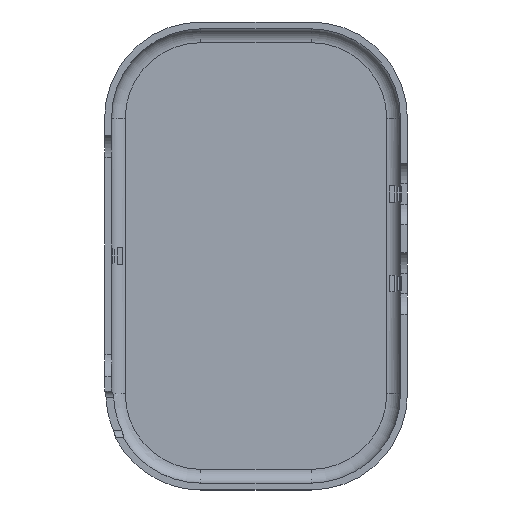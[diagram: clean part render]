
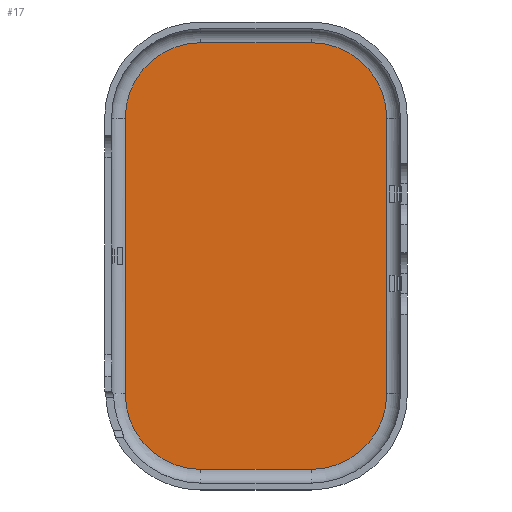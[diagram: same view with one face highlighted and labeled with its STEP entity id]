
A CAD part, top view. The second image highlights one B-rep face of the part: STEP entity #17.
In plain terms, the highlighted planar face has unit normal (0, 0, 1).
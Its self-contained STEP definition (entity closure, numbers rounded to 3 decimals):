
#17 = ADVANCED_FACE('',(#18),#32,.T.);
#18 = FACE_BOUND('',#19,.T.);
#19 = EDGE_LOOP('',(#20,#55,#84,#112,#141,#169,#198,#226));
#20 = ORIENTED_EDGE('',*,*,#21,.T.);
#21 = EDGE_CURVE('',#22,#24,#26,.T.);
#22 = VERTEX_POINT('',#23);
#23 = CARTESIAN_POINT('',(-38.,40.,-11.2));
#24 = VERTEX_POINT('',#25);
#25 = CARTESIAN_POINT('',(-38.,-40.,-11.2));
#26 = SURFACE_CURVE('',#27,(#31,#43),.PCURVE_S1.);
#27 = LINE('',#28,#29);
#28 = CARTESIAN_POINT('',(-38.,33.,-11.2));
#29 = VECTOR('',#30,1.);
#30 = DIRECTION('',(0.,-1.,0.));
#31 = PCURVE('',#32,#37);
#32 = PLANE('',#33);
#33 = AXIS2_PLACEMENT_3D('',#34,#35,#36);
#34 = CARTESIAN_POINT('',(0.,0.,-11.2));
#35 = DIRECTION('',(0.,0.,1.));
#36 = DIRECTION('',(1.,0.,-0.));
#37 = DEFINITIONAL_REPRESENTATION('',(#38),#42);
#38 = LINE('',#39,#40);
#39 = CARTESIAN_POINT('',(-38.,33.));
#40 = VECTOR('',#41,1.);
#41 = DIRECTION('',(0.,-1.));
#42 = ( GEOMETRIC_REPRESENTATION_CONTEXT(2) 
PARAMETRIC_REPRESENTATION_CONTEXT() REPRESENTATION_CONTEXT('2D SPACE',''
  ) );
#43 = PCURVE('',#44,#49);
#44 = CYLINDRICAL_SURFACE('',#45,4.);
#45 = AXIS2_PLACEMENT_3D('',#46,#47,#48);
#46 = CARTESIAN_POINT('',(-38.,33.,-7.2));
#47 = DIRECTION('',(0.,-1.,0.));
#48 = DIRECTION('',(-0.707,-0.,-0.707));
#49 = DEFINITIONAL_REPRESENTATION('',(#50),#54);
#50 = LINE('',#51,#52);
#51 = CARTESIAN_POINT('',(7.069,0.));
#52 = VECTOR('',#53,1.);
#53 = DIRECTION('',(0.,1.));
#54 = ( GEOMETRIC_REPRESENTATION_CONTEXT(2) 
PARAMETRIC_REPRESENTATION_CONTEXT() REPRESENTATION_CONTEXT('2D SPACE',''
  ) );
#55 = ORIENTED_EDGE('',*,*,#56,.T.);
#56 = EDGE_CURVE('',#24,#57,#59,.T.);
#57 = VERTEX_POINT('',#58);
#58 = CARTESIAN_POINT('',(-16.,-62.,-11.2));
#59 = SURFACE_CURVE('',#60,(#65,#72),.PCURVE_S1.);
#60 = CIRCLE('',#61,22.);
#61 = AXIS2_PLACEMENT_3D('',#62,#63,#64);
#62 = CARTESIAN_POINT('',(-16.,-40.,-11.2));
#63 = DIRECTION('',(0.,0.,1.));
#64 = DIRECTION('',(-0.707,-0.707,0.));
#65 = PCURVE('',#32,#66);
#66 = DEFINITIONAL_REPRESENTATION('',(#67),#71);
#67 = CIRCLE('',#68,22.);
#68 = AXIS2_PLACEMENT_2D('',#69,#70);
#69 = CARTESIAN_POINT('',(-16.,-40.));
#70 = DIRECTION('',(-0.707,-0.707));
#71 = ( GEOMETRIC_REPRESENTATION_CONTEXT(2) 
PARAMETRIC_REPRESENTATION_CONTEXT() REPRESENTATION_CONTEXT('2D SPACE',''
  ) );
#72 = PCURVE('',#73,#78);
#73 = TOROIDAL_SURFACE('',#74,22.,4.);
#74 = AXIS2_PLACEMENT_3D('',#75,#76,#77);
#75 = CARTESIAN_POINT('',(-16.,-40.,-7.2));
#76 = DIRECTION('',(0.,0.,1.));
#77 = DIRECTION('',(1.,0.,-0.));
#78 = DEFINITIONAL_REPRESENTATION('',(#79),#83);
#79 = LINE('',#80,#81);
#80 = CARTESIAN_POINT('',(-2.356,4.712));
#81 = VECTOR('',#82,1.);
#82 = DIRECTION('',(1.,0.));
#83 = ( GEOMETRIC_REPRESENTATION_CONTEXT(2) 
PARAMETRIC_REPRESENTATION_CONTEXT() REPRESENTATION_CONTEXT('2D SPACE',''
  ) );
#84 = ORIENTED_EDGE('',*,*,#85,.T.);
#85 = EDGE_CURVE('',#57,#86,#88,.T.);
#86 = VERTEX_POINT('',#87);
#87 = CARTESIAN_POINT('',(16.,-62.,-11.2));
#88 = SURFACE_CURVE('',#89,(#93,#100),.PCURVE_S1.);
#89 = LINE('',#90,#91);
#90 = CARTESIAN_POINT('',(-21.,-62.,-11.2));
#91 = VECTOR('',#92,1.);
#92 = DIRECTION('',(1.,0.,0.));
#93 = PCURVE('',#32,#94);
#94 = DEFINITIONAL_REPRESENTATION('',(#95),#99);
#95 = LINE('',#96,#97);
#96 = CARTESIAN_POINT('',(-21.,-62.));
#97 = VECTOR('',#98,1.);
#98 = DIRECTION('',(1.,0.));
#99 = ( GEOMETRIC_REPRESENTATION_CONTEXT(2) 
PARAMETRIC_REPRESENTATION_CONTEXT() REPRESENTATION_CONTEXT('2D SPACE',''
  ) );
#100 = PCURVE('',#101,#106);
#101 = CYLINDRICAL_SURFACE('',#102,4.);
#102 = AXIS2_PLACEMENT_3D('',#103,#104,#105);
#103 = CARTESIAN_POINT('',(-21.,-62.,-7.2));
#104 = DIRECTION('',(1.,0.,0.));
#105 = DIRECTION('',(0.,-0.707,-0.707));
#106 = DEFINITIONAL_REPRESENTATION('',(#107),#111);
#107 = LINE('',#108,#109);
#108 = CARTESIAN_POINT('',(7.069,0.));
#109 = VECTOR('',#110,1.);
#110 = DIRECTION('',(0.,1.));
#111 = ( GEOMETRIC_REPRESENTATION_CONTEXT(2) 
PARAMETRIC_REPRESENTATION_CONTEXT() REPRESENTATION_CONTEXT('2D SPACE',''
  ) );
#112 = ORIENTED_EDGE('',*,*,#113,.T.);
#113 = EDGE_CURVE('',#86,#114,#116,.T.);
#114 = VERTEX_POINT('',#115);
#115 = CARTESIAN_POINT('',(38.,-40.,-11.2));
#116 = SURFACE_CURVE('',#117,(#122,#129),.PCURVE_S1.);
#117 = CIRCLE('',#118,22.);
#118 = AXIS2_PLACEMENT_3D('',#119,#120,#121);
#119 = CARTESIAN_POINT('',(16.,-40.,-11.2));
#120 = DIRECTION('',(0.,0.,1.));
#121 = DIRECTION('',(0.707,-0.707,0.));
#122 = PCURVE('',#32,#123);
#123 = DEFINITIONAL_REPRESENTATION('',(#124),#128);
#124 = CIRCLE('',#125,22.);
#125 = AXIS2_PLACEMENT_2D('',#126,#127);
#126 = CARTESIAN_POINT('',(16.,-40.));
#127 = DIRECTION('',(0.707,-0.707));
#128 = ( GEOMETRIC_REPRESENTATION_CONTEXT(2) 
PARAMETRIC_REPRESENTATION_CONTEXT() REPRESENTATION_CONTEXT('2D SPACE',''
  ) );
#129 = PCURVE('',#130,#135);
#130 = TOROIDAL_SURFACE('',#131,22.,4.);
#131 = AXIS2_PLACEMENT_3D('',#132,#133,#134);
#132 = CARTESIAN_POINT('',(16.,-40.,-7.2));
#133 = DIRECTION('',(0.,0.,1.));
#134 = DIRECTION('',(1.,0.,-0.));
#135 = DEFINITIONAL_REPRESENTATION('',(#136),#140);
#136 = LINE('',#137,#138);
#137 = CARTESIAN_POINT('',(-0.785,4.712));
#138 = VECTOR('',#139,1.);
#139 = DIRECTION('',(1.,0.));
#140 = ( GEOMETRIC_REPRESENTATION_CONTEXT(2) 
PARAMETRIC_REPRESENTATION_CONTEXT() REPRESENTATION_CONTEXT('2D SPACE',''
  ) );
#141 = ORIENTED_EDGE('',*,*,#142,.T.);
#142 = EDGE_CURVE('',#114,#143,#145,.T.);
#143 = VERTEX_POINT('',#144);
#144 = CARTESIAN_POINT('',(38.,40.,-11.2));
#145 = SURFACE_CURVE('',#146,(#150,#157),.PCURVE_S1.);
#146 = LINE('',#147,#148);
#147 = CARTESIAN_POINT('',(38.,-33.,-11.2));
#148 = VECTOR('',#149,1.);
#149 = DIRECTION('',(0.,1.,0.));
#150 = PCURVE('',#32,#151);
#151 = DEFINITIONAL_REPRESENTATION('',(#152),#156);
#152 = LINE('',#153,#154);
#153 = CARTESIAN_POINT('',(38.,-33.));
#154 = VECTOR('',#155,1.);
#155 = DIRECTION('',(0.,1.));
#156 = ( GEOMETRIC_REPRESENTATION_CONTEXT(2) 
PARAMETRIC_REPRESENTATION_CONTEXT() REPRESENTATION_CONTEXT('2D SPACE',''
  ) );
#157 = PCURVE('',#158,#163);
#158 = CYLINDRICAL_SURFACE('',#159,4.);
#159 = AXIS2_PLACEMENT_3D('',#160,#161,#162);
#160 = CARTESIAN_POINT('',(38.,-33.,-7.2));
#161 = DIRECTION('',(0.,1.,0.));
#162 = DIRECTION('',(0.707,0.,-0.707));
#163 = DEFINITIONAL_REPRESENTATION('',(#164),#168);
#164 = LINE('',#165,#166);
#165 = CARTESIAN_POINT('',(7.069,0.));
#166 = VECTOR('',#167,1.);
#167 = DIRECTION('',(0.,1.));
#168 = ( GEOMETRIC_REPRESENTATION_CONTEXT(2) 
PARAMETRIC_REPRESENTATION_CONTEXT() REPRESENTATION_CONTEXT('2D SPACE',''
  ) );
#169 = ORIENTED_EDGE('',*,*,#170,.T.);
#170 = EDGE_CURVE('',#143,#171,#173,.T.);
#171 = VERTEX_POINT('',#172);
#172 = CARTESIAN_POINT('',(16.,62.,-11.2));
#173 = SURFACE_CURVE('',#174,(#179,#186),.PCURVE_S1.);
#174 = CIRCLE('',#175,22.);
#175 = AXIS2_PLACEMENT_3D('',#176,#177,#178);
#176 = CARTESIAN_POINT('',(16.,40.,-11.2));
#177 = DIRECTION('',(0.,0.,1.));
#178 = DIRECTION('',(0.707,0.707,-0.));
#179 = PCURVE('',#32,#180);
#180 = DEFINITIONAL_REPRESENTATION('',(#181),#185);
#181 = CIRCLE('',#182,22.);
#182 = AXIS2_PLACEMENT_2D('',#183,#184);
#183 = CARTESIAN_POINT('',(16.,40.));
#184 = DIRECTION('',(0.707,0.707));
#185 = ( GEOMETRIC_REPRESENTATION_CONTEXT(2) 
PARAMETRIC_REPRESENTATION_CONTEXT() REPRESENTATION_CONTEXT('2D SPACE',''
  ) );
#186 = PCURVE('',#187,#192);
#187 = TOROIDAL_SURFACE('',#188,22.,4.);
#188 = AXIS2_PLACEMENT_3D('',#189,#190,#191);
#189 = CARTESIAN_POINT('',(16.,40.,-7.2));
#190 = DIRECTION('',(0.,0.,1.));
#191 = DIRECTION('',(1.,0.,-0.));
#192 = DEFINITIONAL_REPRESENTATION('',(#193),#197);
#193 = LINE('',#194,#195);
#194 = CARTESIAN_POINT('',(-5.498,4.712));
#195 = VECTOR('',#196,1.);
#196 = DIRECTION('',(1.,0.));
#197 = ( GEOMETRIC_REPRESENTATION_CONTEXT(2) 
PARAMETRIC_REPRESENTATION_CONTEXT() REPRESENTATION_CONTEXT('2D SPACE',''
  ) );
#198 = ORIENTED_EDGE('',*,*,#199,.T.);
#199 = EDGE_CURVE('',#171,#200,#202,.T.);
#200 = VERTEX_POINT('',#201);
#201 = CARTESIAN_POINT('',(-16.,62.,-11.2));
#202 = SURFACE_CURVE('',#203,(#207,#214),.PCURVE_S1.);
#203 = LINE('',#204,#205);
#204 = CARTESIAN_POINT('',(21.,62.,-11.2));
#205 = VECTOR('',#206,1.);
#206 = DIRECTION('',(-1.,0.,0.));
#207 = PCURVE('',#32,#208);
#208 = DEFINITIONAL_REPRESENTATION('',(#209),#213);
#209 = LINE('',#210,#211);
#210 = CARTESIAN_POINT('',(21.,62.));
#211 = VECTOR('',#212,1.);
#212 = DIRECTION('',(-1.,0.));
#213 = ( GEOMETRIC_REPRESENTATION_CONTEXT(2) 
PARAMETRIC_REPRESENTATION_CONTEXT() REPRESENTATION_CONTEXT('2D SPACE',''
  ) );
#214 = PCURVE('',#215,#220);
#215 = CYLINDRICAL_SURFACE('',#216,4.);
#216 = AXIS2_PLACEMENT_3D('',#217,#218,#219);
#217 = CARTESIAN_POINT('',(21.,62.,-7.2));
#218 = DIRECTION('',(-1.,0.,0.));
#219 = DIRECTION('',(0.,0.707,-0.707));
#220 = DEFINITIONAL_REPRESENTATION('',(#221),#225);
#221 = LINE('',#222,#223);
#222 = CARTESIAN_POINT('',(7.069,0.));
#223 = VECTOR('',#224,1.);
#224 = DIRECTION('',(0.,1.));
#225 = ( GEOMETRIC_REPRESENTATION_CONTEXT(2) 
PARAMETRIC_REPRESENTATION_CONTEXT() REPRESENTATION_CONTEXT('2D SPACE',''
  ) );
#226 = ORIENTED_EDGE('',*,*,#227,.T.);
#227 = EDGE_CURVE('',#200,#22,#228,.T.);
#228 = SURFACE_CURVE('',#229,(#234,#241),.PCURVE_S1.);
#229 = CIRCLE('',#230,22.);
#230 = AXIS2_PLACEMENT_3D('',#231,#232,#233);
#231 = CARTESIAN_POINT('',(-16.,40.,-11.2));
#232 = DIRECTION('',(0.,0.,1.));
#233 = DIRECTION('',(-0.707,0.707,0.));
#234 = PCURVE('',#32,#235);
#235 = DEFINITIONAL_REPRESENTATION('',(#236),#240);
#236 = CIRCLE('',#237,22.);
#237 = AXIS2_PLACEMENT_2D('',#238,#239);
#238 = CARTESIAN_POINT('',(-16.,40.));
#239 = DIRECTION('',(-0.707,0.707));
#240 = ( GEOMETRIC_REPRESENTATION_CONTEXT(2) 
PARAMETRIC_REPRESENTATION_CONTEXT() REPRESENTATION_CONTEXT('2D SPACE',''
  ) );
#241 = PCURVE('',#242,#247);
#242 = TOROIDAL_SURFACE('',#243,22.,4.);
#243 = AXIS2_PLACEMENT_3D('',#244,#245,#246);
#244 = CARTESIAN_POINT('',(-16.,40.,-7.2));
#245 = DIRECTION('',(0.,0.,1.));
#246 = DIRECTION('',(1.,0.,-0.));
#247 = DEFINITIONAL_REPRESENTATION('',(#248),#252);
#248 = LINE('',#249,#250);
#249 = CARTESIAN_POINT('',(-3.927,4.712));
#250 = VECTOR('',#251,1.);
#251 = DIRECTION('',(1.,0.));
#252 = ( GEOMETRIC_REPRESENTATION_CONTEXT(2) 
PARAMETRIC_REPRESENTATION_CONTEXT() REPRESENTATION_CONTEXT('2D SPACE',''
  ) );
